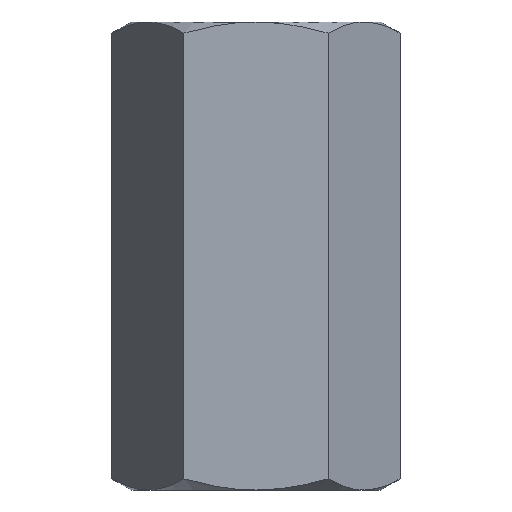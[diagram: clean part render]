
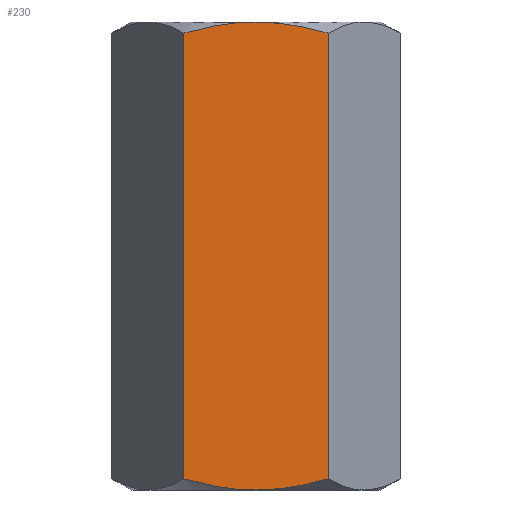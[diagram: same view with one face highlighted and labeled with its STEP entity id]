
A CAD part, front view. The second image highlights one B-rep face of the part: STEP entity #230.
In plain terms, the highlighted planar face has unit normal (0, -1, 0).
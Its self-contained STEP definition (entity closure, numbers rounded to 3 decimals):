
#1 = CARTESIAN_POINT ( 'NONE',  ( 0.395, -4., 7.5 ) ) ;
#23 = CARTESIAN_POINT ( 'NONE',  ( -2.309, -4., -7.5 ) ) ;
#28 = LINE ( 'NONE', #23, #596 ) ;
#29 = CARTESIAN_POINT ( 'NONE',  ( 2.309, -4., -7.143 ) ) ;
#31 = CARTESIAN_POINT ( 'NONE',  ( 0., -4., 7.5 ) ) ;
#36 = CARTESIAN_POINT ( 'NONE',  ( -2.309, -4., -7.143 ) ) ;
#39 = EDGE_LOOP ( 'NONE', ( #338, #862, #639, #747, #658, #546 ) ) ;
#49 = CARTESIAN_POINT ( 'NONE',  ( 2.309, -4., 7.143 ) ) ;
#65 = CARTESIAN_POINT ( 'NONE',  ( -1.554, -4., -7.341 ) ) ;
#72 = VERTEX_POINT ( 'NONE', #429 ) ;
#76 = VERTEX_POINT ( 'NONE', #29 ) ;
#78 = CARTESIAN_POINT ( 'NONE',  ( 1.55, -4., -7.342 ) ) ;
#108 = CARTESIAN_POINT ( 'NONE',  ( -2.309, -4., 7.143 ) ) ;
#113 = PLANE ( 'NONE',  #713 ) ;
#146 = CARTESIAN_POINT ( 'NONE',  ( 0.388, -4., -7.5 ) ) ;
#153 = VECTOR ( 'NONE', #407, 1000. ) ;
#174 = B_SPLINE_CURVE_WITH_KNOTS ( 'NONE', 3,
 ( #600, #231, #581, #31 ),
 .UNSPECIFIED., .F., .F.,
 ( 4, 4 ),
 ( 0.014, 0.016 ),
 .UNSPECIFIED. ) ;
#230 = ADVANCED_FACE ( 'NONE', ( #849 ), #113, .T. ) ;
#231 = CARTESIAN_POINT ( 'NONE',  ( -1.557, -4., 7.36 ) ) ;
#250 = B_SPLINE_CURVE_WITH_KNOTS ( 'NONE', 3,
 ( #345, #1, #406, #264, #681, #49 ),
 .UNSPECIFIED., .F., .F.,
 ( 4, 2, 4 ),
 ( 0.016, 0.017, 0.018 ),
 .UNSPECIFIED. ) ;
#259 = CARTESIAN_POINT ( 'NONE',  ( -1.935, -4., -7.251 ) ) ;
#264 = CARTESIAN_POINT ( 'NONE',  ( 1.554, -4., 7.341 ) ) ;
#265 = LINE ( 'NONE', #741, #153 ) ;
#267 = VERTEX_POINT ( 'NONE', #108 ) ;
#338 = ORIENTED_EDGE ( 'NONE', *, *, #719, .F. ) ;
#345 = CARTESIAN_POINT ( 'NONE',  ( 0., -4., 7.5 ) ) ;
#356 = EDGE_CURVE ( 'NONE', #76, #753, #265, .T. ) ;
#360 = B_SPLINE_CURVE_WITH_KNOTS ( 'NONE', 3,
 ( #757, #146, #703, #78, #554, #824 ),
 .UNSPECIFIED., .F., .F.,
 ( 4, 2, 4 ),
 ( 0.011, 0.012, 0.013 ),
 .UNSPECIFIED. ) ;
#406 = CARTESIAN_POINT ( 'NONE',  ( 0.786, -4., 7.466 ) ) ;
#407 = DIRECTION ( 'NONE',  ( 0., 0., 1. ) ) ;
#419 = VERTEX_POINT ( 'NONE', #698 ) ;
#429 = CARTESIAN_POINT ( 'NONE',  ( 0., -4., -7.5 ) ) ;
#511 = EDGE_CURVE ( 'NONE', #72, #76, #360, .T. ) ;
#517 = CARTESIAN_POINT ( 'NONE',  ( -2.309, -4., -7.5 ) ) ;
#540 = CARTESIAN_POINT ( 'NONE',  ( -2.309, -4., -7.143 ) ) ;
#544 = CARTESIAN_POINT ( 'NONE',  ( 0., -4., -7.5 ) ) ;
#546 = ORIENTED_EDGE ( 'NONE', *, *, #816, .F. ) ;
#551 = EDGE_CURVE ( 'NONE', #695, #267, #28, .T. ) ;
#554 = CARTESIAN_POINT ( 'NONE',  ( 1.935, -4., -7.251 ) ) ;
#577 = DIRECTION ( 'NONE',  ( 0., 0., 1. ) ) ;
#581 = CARTESIAN_POINT ( 'NONE',  ( -0.791, -4., 7.5 ) ) ;
#596 = VECTOR ( 'NONE', #577, 1000. ) ;
#600 = CARTESIAN_POINT ( 'NONE',  ( -2.309, -4., 7.143 ) ) ;
#639 = ORIENTED_EDGE ( 'NONE', *, *, #768, .T. ) ;
#652 = DIRECTION ( 'NONE',  ( 0., 0., -1. ) ) ;
#658 = ORIENTED_EDGE ( 'NONE', *, *, #356, .T. ) ;
#667 = DIRECTION ( 'NONE',  ( 0., -1., 0. ) ) ;
#681 = CARTESIAN_POINT ( 'NONE',  ( 1.934, -4., 7.251 ) ) ;
#695 = VERTEX_POINT ( 'NONE', #36 ) ;
#698 = CARTESIAN_POINT ( 'NONE',  ( 0., -4., 7.5 ) ) ;
#703 = CARTESIAN_POINT ( 'NONE',  ( 0.776, -4., -7.467 ) ) ;
#713 = AXIS2_PLACEMENT_3D ( 'NONE', #517, #667, #652 ) ;
#719 = EDGE_CURVE ( 'NONE', #267, #419, #174, .T. ) ;
#740 = CARTESIAN_POINT ( 'NONE',  ( -0.388, -4., -7.5 ) ) ;
#741 = CARTESIAN_POINT ( 'NONE',  ( 2.309, -4., -7.5 ) ) ;
#747 = ORIENTED_EDGE ( 'NONE', *, *, #511, .T. ) ;
#753 = VERTEX_POINT ( 'NONE', #871 ) ;
#757 = CARTESIAN_POINT ( 'NONE',  ( 0., -4., -7.5 ) ) ;
#768 = EDGE_CURVE ( 'NONE', #695, #72, #807, .T. ) ;
#805 = CARTESIAN_POINT ( 'NONE',  ( -0.776, -4., -7.467 ) ) ;
#807 = B_SPLINE_CURVE_WITH_KNOTS ( 'NONE', 3,
 ( #540, #259, #65, #805, #740, #544 ),
 .UNSPECIFIED., .F., .F.,
 ( 4, 2, 4 ),
 ( 0.009, 0.01, 0.011 ),
 .UNSPECIFIED. ) ;
#816 = EDGE_CURVE ( 'NONE', #419, #753, #250, .T. ) ;
#824 = CARTESIAN_POINT ( 'NONE',  ( 2.309, -4., -7.143 ) ) ;
#849 = FACE_OUTER_BOUND ( 'NONE', #39, .T. ) ;
#862 = ORIENTED_EDGE ( 'NONE', *, *, #551, .F. ) ;
#871 = CARTESIAN_POINT ( 'NONE',  ( 2.309, -4., 7.143 ) ) ;
